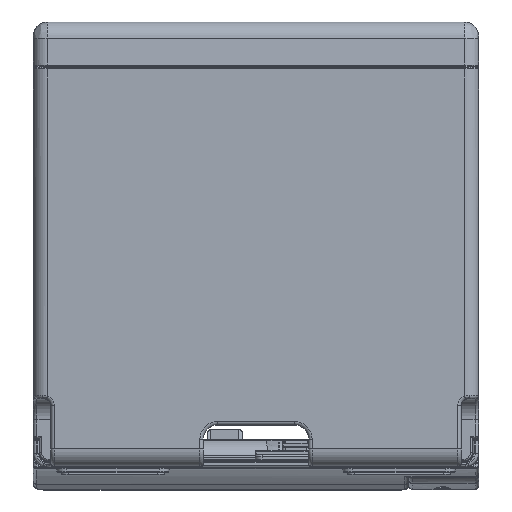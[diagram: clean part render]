
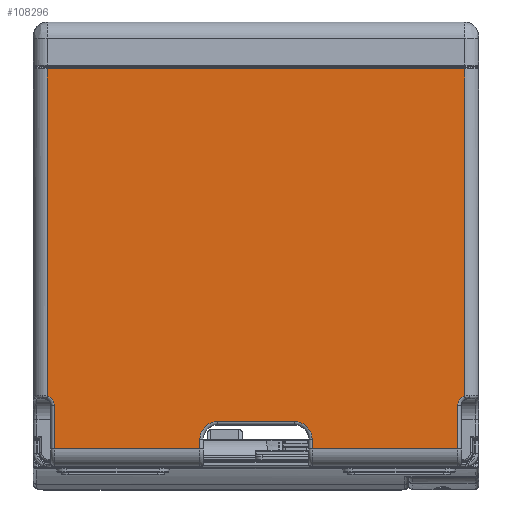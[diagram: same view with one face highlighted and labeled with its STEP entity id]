
A CAD part, front view. The second image highlights one B-rep face of the part: STEP entity #108296.
In plain terms, the highlighted planar face has unit normal (0, -1, 0).
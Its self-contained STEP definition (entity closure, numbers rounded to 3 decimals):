
#103740=DIRECTION('',(1.,0.,0.));
#103741=VECTOR('',#103740,119.);
#103742=CARTESIAN_POINT('',(-91.1,-106.5,10.1));
#103743=LINE('',#103742,#103741);
#103744=CARTESIAN_POINT('',(28.9,-106.5,-86.));
#103745=DIRECTION('',(0.,1.,0.));
#103746=DIRECTION('',(-1.,0.,0.));
#103747=AXIS2_PLACEMENT_3D('',#103744,#103745,#103746);
#103749=DIRECTION('',(0.,0.,1.));
#103750=VECTOR('',#103749,12.288);
#103751=CARTESIAN_POINT('',(25.9,-106.5,-98.288));
#103752=LINE('',#103751,#103750);
#103753=DIRECTION('',(-1.,0.,0.));
#103754=VECTOR('',#103753,41.5);
#103755=CARTESIAN_POINT('',(25.9,-106.5,-98.288));
#103756=LINE('',#103755,#103754);
#103757=DIRECTION('',(0.,0.,-1.));
#103758=VECTOR('',#103757,2.788);
#103759=CARTESIAN_POINT('',(-15.6,-106.5,-95.5));
#103760=LINE('',#103759,#103758);
#103761=CARTESIAN_POINT('',(-20.6,-106.5,-95.5));
#103762=DIRECTION('',(0.,1.,0.));
#103763=DIRECTION('',(0.,0.,1.));
#103764=AXIS2_PLACEMENT_3D('',#103761,#103762,#103763);
#103766=DIRECTION('',(1.,0.,0.));
#103767=VECTOR('',#103766,22.);
#103768=CARTESIAN_POINT('',(-42.6,-106.5,-90.5));
#103769=LINE('',#103768,#103767);
#103770=CARTESIAN_POINT('',(-42.6,-106.5,-95.5));
#103771=DIRECTION('',(0.,1.,0.));
#103772=DIRECTION('',(-1.,0.,0.));
#103773=AXIS2_PLACEMENT_3D('',#103770,#103771,#103772);
#103775=DIRECTION('',(0.,0.,1.));
#103776=VECTOR('',#103775,2.788);
#103777=CARTESIAN_POINT('',(-47.6,-106.5,-98.288));
#103778=LINE('',#103777,#103776);
#103779=DIRECTION('',(-1.,0.,0.));
#103780=VECTOR('',#103779,41.5);
#103781=CARTESIAN_POINT('',(-47.6,-106.5,-98.288));
#103782=LINE('',#103781,#103780);
#103783=DIRECTION('',(0.,0.,-1.));
#103784=VECTOR('',#103783,12.288);
#103785=CARTESIAN_POINT('',(-89.1,-106.5,-86.));
#103786=LINE('',#103785,#103784);
#103787=CARTESIAN_POINT('',(-92.1,-106.5,-86.));
#103788=DIRECTION('',(0.,1.,0.));
#103789=DIRECTION('',(0.333,0.,0.943));
#103790=AXIS2_PLACEMENT_3D('',#103787,#103788,#103789);
#106769=DIRECTION('',(0.,0.,-1.));
#106770=VECTOR('',#106769,93.272);
#106771=CARTESIAN_POINT('',(-91.1,-106.5,10.1));
#106772=LINE('',#106771,#106770);
#106812=DIRECTION('',(0.,0.,1.));
#106813=VECTOR('',#106812,93.272);
#106814=CARTESIAN_POINT('',(27.9,-106.5,-83.172));
#106815=LINE('',#106814,#106813);
#107336=CARTESIAN_POINT('',(25.9,-106.5,-86.));
#107337=CARTESIAN_POINT('',(27.9,-106.5,-83.172));
#107338=VERTEX_POINT('',#107336);
#107339=VERTEX_POINT('',#107337);
#107344=CARTESIAN_POINT('',(25.9,-106.5,-98.288));
#107345=VERTEX_POINT('',#107344);
#107348=CARTESIAN_POINT('',(-89.1,-106.5,-86.));
#107349=CARTESIAN_POINT('',(-89.1,-106.5,-98.288));
#107350=VERTEX_POINT('',#107348);
#107351=VERTEX_POINT('',#107349);
#107356=CARTESIAN_POINT('',(-91.1,-106.5,-83.172));
#107357=VERTEX_POINT('',#107356);
#107416=CARTESIAN_POINT('',(-20.6,-106.5,-90.5));
#107417=CARTESIAN_POINT('',(-15.6,-106.5,-95.5));
#107418=VERTEX_POINT('',#107416);
#107419=VERTEX_POINT('',#107417);
#107424=CARTESIAN_POINT('',(-42.6,-106.5,-90.5));
#107425=VERTEX_POINT('',#107424);
#107428=CARTESIAN_POINT('',(-47.6,-106.5,-95.5));
#107429=VERTEX_POINT('',#107428);
#107464=CARTESIAN_POINT('',(-91.1,-106.5,10.1));
#107465=CARTESIAN_POINT('',(27.9,-106.5,10.1));
#107466=VERTEX_POINT('',#107464);
#107467=VERTEX_POINT('',#107465);
#107476=CARTESIAN_POINT('',(-15.6,-106.5,-98.288));
#107477=VERTEX_POINT('',#107476);
#107480=CARTESIAN_POINT('',(-47.6,-106.5,-98.288));
#107481=VERTEX_POINT('',#107480);
#108261=CARTESIAN_POINT('',(31.9,-106.5,-103.5));
#108262=DIRECTION('',(0.,-1.,0.));
#108263=DIRECTION('',(0.,0.,1.));
#108264=AXIS2_PLACEMENT_3D('',#108261,#108262,#108263);
#108265=PLANE('',#108264);
#108267=ORIENTED_EDGE('',*,*,#108266,.T.);
#108269=ORIENTED_EDGE('',*,*,#108268,.F.);
#108271=ORIENTED_EDGE('',*,*,#108270,.F.);
#108273=ORIENTED_EDGE('',*,*,#108272,.F.);
#108275=ORIENTED_EDGE('',*,*,#108274,.T.);
#108277=ORIENTED_EDGE('',*,*,#108276,.F.);
#108279=ORIENTED_EDGE('',*,*,#108278,.F.);
#108281=ORIENTED_EDGE('',*,*,#108280,.F.);
#108283=ORIENTED_EDGE('',*,*,#108282,.F.);
#108285=ORIENTED_EDGE('',*,*,#108284,.F.);
#108287=ORIENTED_EDGE('',*,*,#108286,.T.);
#108289=ORIENTED_EDGE('',*,*,#108288,.F.);
#108291=ORIENTED_EDGE('',*,*,#108290,.F.);
#108293=ORIENTED_EDGE('',*,*,#108292,.F.);
#108294=EDGE_LOOP('',(#108267,#108269,#108271,#108273,#108275,#108277,#108279,
#108281,#108283,#108285,#108287,#108289,#108291,#108293));
#108295=FACE_OUTER_BOUND('',#108294,.F.);
#103748=CIRCLE('',#103747,3.);
#103765=CIRCLE('',#103764,5.);
#103774=CIRCLE('',#103773,5.);
#103791=CIRCLE('',#103790,3.);
#108266=EDGE_CURVE('',#107466,#107467,#103743,.T.);
#108268=EDGE_CURVE('',#107339,#107467,#106815,.T.);
#108270=EDGE_CURVE('',#107338,#107339,#103748,.T.);
#108272=EDGE_CURVE('',#107345,#107338,#103752,.T.);
#108274=EDGE_CURVE('',#107345,#107477,#103756,.T.);
#108276=EDGE_CURVE('',#107419,#107477,#103760,.T.);
#108278=EDGE_CURVE('',#107418,#107419,#103765,.T.);
#108280=EDGE_CURVE('',#107425,#107418,#103769,.T.);
#108282=EDGE_CURVE('',#107429,#107425,#103774,.T.);
#108284=EDGE_CURVE('',#107481,#107429,#103778,.T.);
#108286=EDGE_CURVE('',#107481,#107351,#103782,.T.);
#108288=EDGE_CURVE('',#107350,#107351,#103786,.T.);
#108290=EDGE_CURVE('',#107357,#107350,#103791,.T.);
#108292=EDGE_CURVE('',#107466,#107357,#106772,.T.);
#108296=ADVANCED_FACE('',(#108295),#108265,.T.);
